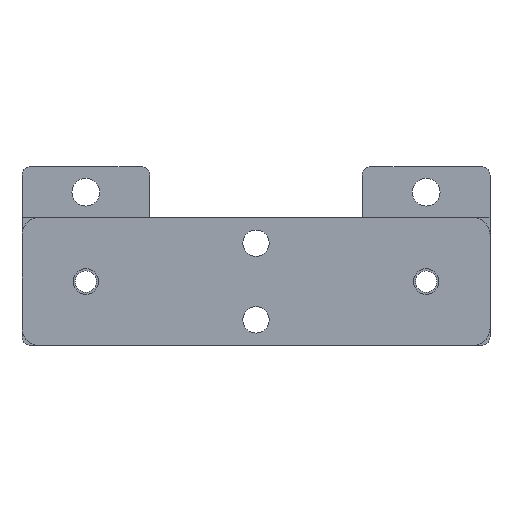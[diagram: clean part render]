
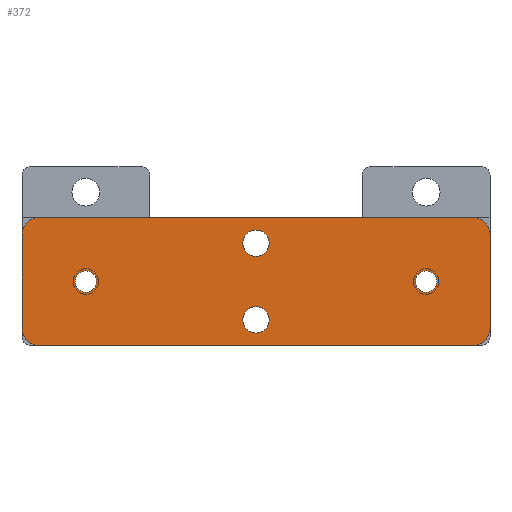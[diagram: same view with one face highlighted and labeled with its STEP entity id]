
A CAD part, front view. The second image highlights one B-rep face of the part: STEP entity #372.
In plain terms, the highlighted planar face has unit normal (0, -1, 0).
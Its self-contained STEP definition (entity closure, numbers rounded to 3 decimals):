
#1=CARTESIAN_POINT('',(0.,0.,9.));
#2=DIRECTION('',(0.,1.,0.));
#3=DIRECTION('',(1.,0.,0.));
#4=AXIS2_PLACEMENT_3D('',#1,#2,#3);
#6=CARTESIAN_POINT('',(0.,0.,9.));
#7=DIRECTION('',(0.,1.,0.));
#8=DIRECTION('',(-1.,0.,0.));
#9=AXIS2_PLACEMENT_3D('',#6,#7,#8);
#11=CARTESIAN_POINT('',(0.,0.,-9.));
#12=DIRECTION('',(0.,1.,0.));
#13=DIRECTION('',(1.,0.,0.));
#14=AXIS2_PLACEMENT_3D('',#11,#12,#13);
#16=CARTESIAN_POINT('',(0.,0.,-9.));
#17=DIRECTION('',(0.,1.,0.));
#18=DIRECTION('',(-1.,0.,0.));
#19=AXIS2_PLACEMENT_3D('',#16,#17,#18);
#21=CARTESIAN_POINT('',(40.,0.,0.));
#22=DIRECTION('',(0.,1.,0.));
#23=DIRECTION('',(1.,0.,0.));
#24=AXIS2_PLACEMENT_3D('',#21,#22,#23);
#26=CARTESIAN_POINT('',(40.,0.,0.));
#27=DIRECTION('',(0.,1.,0.));
#28=DIRECTION('',(-1.,0.,0.));
#29=AXIS2_PLACEMENT_3D('',#26,#27,#28);
#31=CARTESIAN_POINT('',(-40.,0.,0.));
#32=DIRECTION('',(0.,1.,0.));
#33=DIRECTION('',(1.,0.,0.));
#34=AXIS2_PLACEMENT_3D('',#31,#32,#33);
#36=CARTESIAN_POINT('',(-40.,0.,0.));
#37=DIRECTION('',(0.,1.,0.));
#38=DIRECTION('',(-1.,0.,0.));
#39=AXIS2_PLACEMENT_3D('',#36,#37,#38);
#41=DIRECTION('',(0.,0.,-1.));
#42=VECTOR('',#41,22.);
#43=CARTESIAN_POINT('',(55.,0.,11.));
#44=LINE('',#43,#42);
#45=DIRECTION('',(-1.,0.,0.));
#46=VECTOR('',#45,102.);
#47=CARTESIAN_POINT('',(51.,0.,-15.));
#48=LINE('',#47,#46);
#49=DIRECTION('',(0.,0.,1.));
#50=VECTOR('',#49,22.);
#51=CARTESIAN_POINT('',(-55.,0.,-11.));
#52=LINE('',#51,#50);
#53=DIRECTION('',(1.,0.,0.));
#54=VECTOR('',#53,102.);
#55=CARTESIAN_POINT('',(-51.,0.,15.));
#56=LINE('',#55,#54);
#194=CARTESIAN_POINT('',(51.,0.,11.));
#195=DIRECTION('',(0.,-1.,0.));
#196=DIRECTION('',(1.,0.,0.));
#197=AXIS2_PLACEMENT_3D('',#194,#195,#196);
#212=CARTESIAN_POINT('',(-51.,0.,11.));
#213=DIRECTION('',(0.,-1.,0.));
#214=DIRECTION('',(0.,0.,1.));
#215=AXIS2_PLACEMENT_3D('',#212,#213,#214);
#230=CARTESIAN_POINT('',(-51.,0.,-11.));
#231=DIRECTION('',(0.,-1.,0.));
#232=DIRECTION('',(-1.,0.,0.));
#233=AXIS2_PLACEMENT_3D('',#230,#231,#232);
#248=CARTESIAN_POINT('',(51.,0.,-11.));
#249=DIRECTION('',(0.,-1.,0.));
#250=DIRECTION('',(0.,0.,-1.));
#251=AXIS2_PLACEMENT_3D('',#248,#249,#250);
#253=CARTESIAN_POINT('',(3.1,0.,9.));
#254=CARTESIAN_POINT('',(-3.1,0.,9.));
#255=VERTEX_POINT('',#253);
#256=VERTEX_POINT('',#254);
#257=CARTESIAN_POINT('',(3.1,0.,-9.));
#258=CARTESIAN_POINT('',(-3.1,0.,-9.));
#259=VERTEX_POINT('',#257);
#260=VERTEX_POINT('',#258);
#273=CARTESIAN_POINT('',(42.5,0.,0.));
#274=CARTESIAN_POINT('',(37.5,0.,0.));
#275=VERTEX_POINT('',#273);
#276=VERTEX_POINT('',#274);
#285=CARTESIAN_POINT('',(-37.5,0.,0.));
#286=CARTESIAN_POINT('',(-42.5,0.,0.));
#287=VERTEX_POINT('',#285);
#288=VERTEX_POINT('',#286);
#294=CARTESIAN_POINT('',(51.,0.,15.));
#296=VERTEX_POINT('',#294);
#299=CARTESIAN_POINT('',(55.,0.,11.));
#300=VERTEX_POINT('',#299);
#302=CARTESIAN_POINT('',(55.,0.,-11.));
#304=VERTEX_POINT('',#302);
#307=CARTESIAN_POINT('',(51.,0.,-15.));
#308=VERTEX_POINT('',#307);
#310=CARTESIAN_POINT('',(-55.,0.,11.));
#312=VERTEX_POINT('',#310);
#315=CARTESIAN_POINT('',(-51.,0.,15.));
#316=VERTEX_POINT('',#315);
#318=CARTESIAN_POINT('',(-51.,0.,-15.));
#320=VERTEX_POINT('',#318);
#323=CARTESIAN_POINT('',(-55.,0.,-11.));
#324=VERTEX_POINT('',#323);
#325=CARTESIAN_POINT('',(0.,0.,0.));
#326=DIRECTION('',(0.,1.,0.));
#327=DIRECTION('',(1.,0.,0.));
#328=AXIS2_PLACEMENT_3D('',#325,#326,#327);
#329=PLANE('',#328);
#331=ORIENTED_EDGE('',*,*,#330,.F.);
#333=ORIENTED_EDGE('',*,*,#332,.T.);
#335=ORIENTED_EDGE('',*,*,#334,.F.);
#337=ORIENTED_EDGE('',*,*,#336,.T.);
#339=ORIENTED_EDGE('',*,*,#338,.F.);
#341=ORIENTED_EDGE('',*,*,#340,.T.);
#343=ORIENTED_EDGE('',*,*,#342,.F.);
#345=ORIENTED_EDGE('',*,*,#344,.T.);
#346=EDGE_LOOP('',(#331,#333,#335,#337,#339,#341,#343,#345));
#347=FACE_OUTER_BOUND('',#346,.F.);
#349=ORIENTED_EDGE('',*,*,#348,.F.);
#351=ORIENTED_EDGE('',*,*,#350,.F.);
#352=EDGE_LOOP('',(#349,#351));
#353=FACE_BOUND('',#352,.F.);
#355=ORIENTED_EDGE('',*,*,#354,.F.);
#357=ORIENTED_EDGE('',*,*,#356,.F.);
#358=EDGE_LOOP('',(#355,#357));
#359=FACE_BOUND('',#358,.F.);
#361=ORIENTED_EDGE('',*,*,#360,.F.);
#363=ORIENTED_EDGE('',*,*,#362,.F.);
#364=EDGE_LOOP('',(#361,#363));
#365=FACE_BOUND('',#364,.F.);
#367=ORIENTED_EDGE('',*,*,#366,.F.);
#369=ORIENTED_EDGE('',*,*,#368,.F.);
#370=EDGE_LOOP('',(#367,#369));
#371=FACE_BOUND('',#370,.F.);
#372=ADVANCED_FACE('',(#347,#353,#359,#365,#371),#329,.F.);
#5=CIRCLE('',#4,3.1);
#10=CIRCLE('',#9,3.1);
#15=CIRCLE('',#14,3.1);
#20=CIRCLE('',#19,3.1);
#25=CIRCLE('',#24,2.5);
#30=CIRCLE('',#29,2.5);
#35=CIRCLE('',#34,2.5);
#40=CIRCLE('',#39,2.5);
#198=CIRCLE('',#197,4.);
#216=CIRCLE('',#215,4.);
#234=CIRCLE('',#233,4.);
#252=CIRCLE('',#251,4.);
#330=EDGE_CURVE('',#300,#296,#198,.T.);
#332=EDGE_CURVE('',#300,#304,#44,.T.);
#334=EDGE_CURVE('',#308,#304,#252,.T.);
#336=EDGE_CURVE('',#308,#320,#48,.T.);
#338=EDGE_CURVE('',#324,#320,#234,.T.);
#340=EDGE_CURVE('',#324,#312,#52,.T.);
#342=EDGE_CURVE('',#316,#312,#216,.T.);
#344=EDGE_CURVE('',#316,#296,#56,.T.);
#348=EDGE_CURVE('',#255,#256,#5,.T.);
#350=EDGE_CURVE('',#256,#255,#10,.T.);
#354=EDGE_CURVE('',#259,#260,#15,.T.);
#356=EDGE_CURVE('',#260,#259,#20,.T.);
#360=EDGE_CURVE('',#275,#276,#25,.T.);
#362=EDGE_CURVE('',#276,#275,#30,.T.);
#366=EDGE_CURVE('',#287,#288,#35,.T.);
#368=EDGE_CURVE('',#288,#287,#40,.T.);
